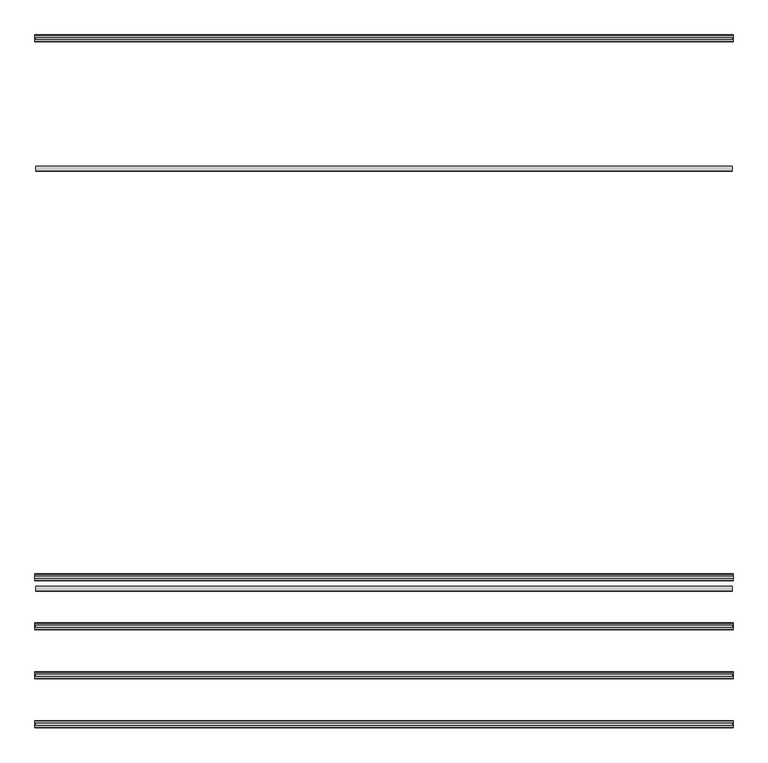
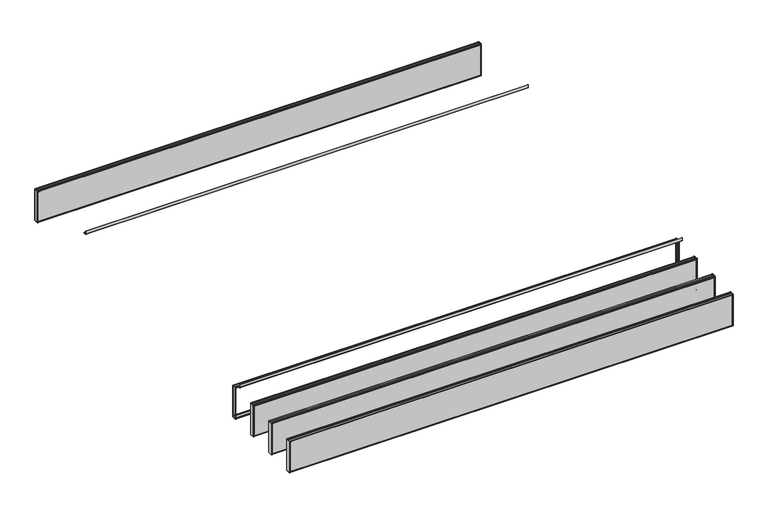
"""IFC4 building model written with IfcOpenShell, lengths in millimetres: proxy geometry, durlum_POLYLAM : durlum_POLYLAM 40."""

from ifc_helpers import new_model, si_unit, point, frame, frame_2d, origin, place, context, project, spatial, polyline, circle_curve, trimmed, segment, composite_curve, outline, extrude, source, transform, mapped, element, save
from ifc_brep_helpers import plane_surface, cylinder_surface, advanced_brep


def generic_models_1035ca5c(model_context):
    return source(origin(), model_context, "Body", "SolidModel", [
        advanced_brep(
        [(1995.0, -1102.0, 2016.9), (1995.0, -1112.0, 2016.9), (1995.0, -1112.0, 2015.9), (1995.0, -1101.0, 2015.9), (1995.0, -1101.0, 1717.9), (1995.0, -1139.0, 1717.9), (1995.0, -1139.0, 2015.8155735), (1995.0, -1128.0, 2015.8155735), (1995.0, -1128.0, 2016.9), (1995.0, -1138.0, 2016.9), (1995.0, -1140.0, 2014.9), (1995.0, -1140.0, 1718.9), (1995.0, -1138.0, 1716.9), (1995.0, -1102.0, 1716.9), (1995.0, -1100.0, 1718.9), (1995.0, -1100.0, 2014.9), (-1995.0, -1102.0, 2016.9), (-1995.0, -1100.0, 2014.9), (-1995.0, -1100.0, 1718.9), (-1995.0, -1102.0, 1716.9), (-1995.0, -1138.0, 1716.9), (-1995.0, -1140.0, 1718.9), (-1995.0, -1140.0, 2014.9), (-1995.0, -1138.0, 2016.9), (-1995.0, -1128.0, 2016.9), (-1995.0, -1128.0, 2015.8155735), (-1995.0, -1139.0, 2015.8155735), (-1995.0, -1139.0, 1717.9), (-1995.0, -1101.0, 1717.9), (-1995.0, -1101.0, 2015.9), (-1995.0, -1112.0, 2015.9), (-1995.0, -1112.0, 2016.9), (-1986.5, -1101.0, 2008.4), (1986.5, -1101.0, 2008.4), (1986.5, -1101.0, 1725.4), (-1986.5, -1101.0, 1725.4), (1986.5, -1139.0, 2008.4), (-1986.5, -1139.0, 2008.4), (-1986.5, -1139.0, 1725.4), (1986.5, -1139.0, 1725.4), (-1986.5, -1140.0, 2008.4), (1986.5, -1140.0, 2008.4), (1986.5, -1140.0, 1725.4), (-1986.5, -1140.0, 1725.4), (1986.5, -1100.0, 2008.4), (-1986.5, -1100.0, 2008.4), (-1986.5, -1100.0, 1725.4), (1986.5, -1100.0, 1725.4)],
        [
            (0, 1),
            (1, 2),
            (2, 3),
            (3, 4),
            (4, 5),
            (5, 6),
            (6, 7),
            (7, 8),
            (8, 9),
            (9, 10, circle_curve(frame((1995.0, -1138.0, 2014.9), z_axis=(1.0, 0.0, 0.0), x_axis=(0.0, 1.0, 0.0)), 2.0)),
            (10, 11),
            (11, 12, circle_curve(frame((1995.0, -1138.0, 1718.9), z_axis=(1.0, 0.0, 0.0), x_axis=(0.0, 1.0, 0.0)), 2.0)),
            (12, 13),
            (13, 14, circle_curve(frame((1995.0, -1102.0, 1718.9), z_axis=(1.0, 0.0, 0.0), x_axis=(0.0, 1.0, 0.0)), 2.0)),
            (14, 15),
            (15, 0, circle_curve(frame((1995.0, -1102.0, 2014.9), z_axis=(1.0, 0.0, 0.0), x_axis=(0.0, 1.0, 0.0)), 2.0)),
            (16, 17, circle_curve(frame((-1995.0, -1102.0, 2014.9), z_axis=(-1.0, 0.0, 0.0), x_axis=(0.0, 1.0, 0.0)), 2.0)),
            (17, 18),
            (18, 19, circle_curve(frame((-1995.0, -1102.0, 1718.9), z_axis=(-1.0, 0.0, 0.0), x_axis=(0.0, 1.0, 0.0)), 2.0)),
            (19, 20),
            (20, 21, circle_curve(frame((-1995.0, -1138.0, 1718.9), z_axis=(-1.0, 0.0, 0.0), x_axis=(0.0, 1.0, 0.0)), 2.0)),
            (21, 22),
            (22, 23, circle_curve(frame((-1995.0, -1138.0, 2014.9), z_axis=(-1.0, 0.0, 0.0), x_axis=(0.0, 1.0, 0.0)), 2.0)),
            (23, 24),
            (24, 25),
            (25, 26),
            (26, 27),
            (27, 28),
            (28, 29),
            (29, 30),
            (30, 31),
            (31, 16),
            (0, 16),
            (31, 1),
            (30, 2),
            (29, 3),
            (28, 4),
            (32, 33),
            (33, 34),
            (34, 35),
            (35, 32),
            (27, 5),
            (26, 6),
            (36, 37),
            (37, 38),
            (38, 39),
            (39, 36),
            (25, 7),
            (24, 8),
            (23, 9),
            (10, 22),
            (21, 11),
            (40, 41),
            (41, 42),
            (42, 43),
            (43, 40),
            (12, 20),
            (19, 13),
            (14, 18),
            (17, 15),
            (44, 45),
            (45, 46),
            (46, 47),
            (47, 44),
            (44, 33),
            (32, 45),
            (36, 41),
            (40, 37),
            (35, 46),
            (43, 38),
            (34, 47),
            (42, 39),
        ],
        [
            plane_surface(frame((1995.0, -1112.0, 2016.9), z_axis=(1.0, 0.0, 0.0), x_axis=(0.0, -1.0, 0.0))),
            plane_surface(frame((-1995.0, -1112.0, 2016.9), z_axis=(-1.0, 0.0, 0.0), x_axis=(0.0, 1.0, 0.0))),
            plane_surface(frame((1995.0, -1102.0, 2016.9), z_axis=(0.0, 0.0, 1.0), x_axis=(-1.0, 0.0, 0.0))),
            plane_surface(frame((1995.0, -1112.0, 2016.9), z_axis=(0.0, -1.0, 0.0), x_axis=(-1.0, 0.0, 0.0))),
            plane_surface(frame((1995.0, -1112.0, 2015.9), z_axis=(0.0, 0.0, -1.0), x_axis=(-1.0, 0.0, 0.0))),
            plane_surface(frame((1995.0, -1101.0, 2015.9), z_axis=(0.0, -1.0, 0.0), x_axis=(-1.0, 0.0, 0.0))),
            plane_surface(frame((1995.0, -1101.0, 1717.9), z_axis=(0.0, 0.0, 1.0), x_axis=(-1.0, 0.0, 0.0))),
            plane_surface(frame((1995.0, -1139.0, 1717.9), z_axis=(0.0, 1.0, 0.0), x_axis=(-1.0, 0.0, 0.0))),
            plane_surface(frame((1995.0, -1139.0, 2015.8155735), z_axis=(0.0, 0.0, -1.0), x_axis=(-1.0, 0.0, 0.0))),
            plane_surface(frame((1995.0, -1128.0, 2015.8155735), z_axis=(0.0, 1.0, 0.0), x_axis=(-1.0, 0.0, 0.0))),
            plane_surface(frame((1995.0, -1128.0, 2016.9), z_axis=(0.0, 0.0, 1.0), x_axis=(-1.0, 0.0, 0.0))),
            plane_surface(frame((1995.0, -1140.0, 2014.9), z_axis=(0.0, -1.0, 0.0), x_axis=(-1.0, 0.0, 0.0))),
            plane_surface(frame((1995.0, -1138.0, 1716.9), z_axis=(0.0, 0.0, -1.0), x_axis=(-1.0, 0.0, 0.0))),
            plane_surface(frame((1995.0, -1100.0, 1718.9), z_axis=(0.0, 1.0, 0.0), x_axis=(-1.0, 0.0, 0.0))),
            cylinder_surface(frame((-1995.0, -1138.0, 2014.9), z_axis=(1.0, 0.0, 0.0), x_axis=(0.0, 1.0, 0.0)), 2.0),
            cylinder_surface(frame((-1995.0, -1138.0, 1718.9), z_axis=(1.0, 0.0, 0.0), x_axis=(0.0, 1.0, 0.0)), 2.0),
            cylinder_surface(frame((-1995.0, -1102.0, 1718.9), z_axis=(1.0, 0.0, 0.0), x_axis=(0.0, 1.0, 0.0)), 2.0),
            cylinder_surface(frame((-1995.0, -1102.0, 2014.9), z_axis=(1.0, 0.0, 0.0), x_axis=(0.0, 1.0, 0.0)), 2.0),
            plane_surface(frame((1986.5, -1140.0, 2008.4), z_axis=(0.0, 0.0, -1.0), x_axis=(0.0, 1.0, 0.0))),
            plane_surface(frame((-1986.5, -1140.0, 2008.4), z_axis=(1.0, 0.0, 0.0), x_axis=(0.0, 1.0, 0.0))),
            plane_surface(frame((-1986.5, -1140.0, 1725.4), z_axis=(0.0, 0.0, 1.0), x_axis=(0.0, 1.0, 0.0))),
            plane_surface(frame((1986.5, -1140.0, 1725.4), z_axis=(-1.0, 0.0, 0.0), x_axis=(0.0, 1.0, 0.0))),
        ],
        [
            (0, [[1, 2, 3, 4, 5, 6, 7, 8, 9, 10, 11, 12, 13, 14, 15, 16]]),
            (1, [[17, 18, 19, 20, 21, 22, 23, 24, 25, 26, 27, 28, 29, 30, 31, 32]]),
            (2, [[-1, 33, -32, 34]]),
            (3, [[-2, -34, -31, 35]]),
            (4, [[-3, -35, -30, 36]]),
            (5, [[-4, -36, -29, 37], [38, 39, 40, 41]]),
            (6, [[-5, -37, -28, 42]]),
            (7, [[-6, -42, -27, 43], [44, 45, 46, 47]]),
            (8, [[-7, -43, -26, 48]]),
            (9, [[-8, -48, -25, 49]]),
            (10, [[-9, -49, -24, 50]]),
            (11, [[-11, 51, -22, 52], [53, 54, 55, 56]]),
            (12, [[-13, 57, -20, 58]]),
            (13, [[-15, 59, -18, 60], [61, 62, 63, 64]]),
            (14, [[-10, -50, -23, -51]]),
            (15, [[-12, -52, -21, -57]]),
            (16, [[-14, -58, -19, -59]]),
            (17, [[-16, -60, -17, -33]]),
            (18, [[65, -38, 66, -61]]),
            (18, [[67, -53, 68, -44]]),
            (19, [[-66, -41, 69, -62]]),
            (19, [[-68, -56, 70, -45]]),
            (20, [[-69, -40, 71, -63]]),
            (20, [[-70, -55, 72, -46]]),
            (21, [[-65, -64, -71, -39]]),
            (21, [[-67, -47, -72, -54]]),
        ],
    ),
        extrude(outline(polyline([(1986.5, -1381.0), (-1986.5, -1381.0), (-1986.5, -1380.0), (1986.5, -1380.0), (1986.5, -1381.0)])), frame((0.0, 0.0, 1725.4), z_axis=(0.0, 0.0, 1.0), x_axis=(1.0, 0.0, 0.0)), (0.0, 0.0, 1.0), 283.0),
        extrude(outline(polyline([(1986.5, -1420.0), (-1986.5, -1420.0), (-1986.5, -1419.0), (1986.5, -1419.0), (1986.5, -1420.0)])), frame((0.0, 0.0, 1725.4), z_axis=(0.0, 0.0, 1.0), x_axis=(1.0, 0.0, 0.0)), (0.0, 0.0, 1.0), 283.0),
        extrude(outline(polyline([(1993.0, -1381.0), (1995.0, -1381.0), (1995.0, -1419.0), (1993.0, -1419.0), (1993.0, -1381.0)])), frame((0.0, 0.0, 1717.9), z_axis=(0.0, 0.0, 1.0), x_axis=(1.0, 0.0, 0.0)), (0.0, 0.0, 1.0), 298.0),
        extrude(outline(polyline([(-1995.0, -1381.0), (-1993.0, -1381.0), (-1993.0, -1419.0), (-1995.0, -1419.0), (-1995.0, -1381.0)])), frame((0.0, 0.0, 1717.9), z_axis=(0.0, 0.0, 1.0), x_axis=(1.0, 0.0, 0.0)), (0.0, 0.0, 1.0), 298.0),
        advanced_brep(
        [(1995.0, -1382.0, 2016.9), (1995.0, -1392.0, 2016.9), (1995.0, -1392.0, 2015.9), (1995.0, -1381.0, 2015.9), (1995.0, -1381.0, 1717.9), (1995.0, -1419.0, 1717.9), (1995.0, -1419.0, 2015.8155735), (1995.0, -1408.0, 2015.8155735), (1995.0, -1408.0, 2016.9), (1995.0, -1418.0, 2016.9), (1995.0, -1420.0, 2014.9), (1995.0, -1420.0, 1718.9), (1995.0, -1418.0, 1716.9), (1995.0, -1382.0, 1716.9), (1995.0, -1380.0, 1718.9), (1995.0, -1380.0, 2014.9), (-1995.0, -1382.0, 2016.9), (-1995.0, -1380.0, 2014.9), (-1995.0, -1380.0, 1718.9), (-1995.0, -1382.0, 1716.9), (-1995.0, -1418.0, 1716.9), (-1995.0, -1420.0, 1718.9), (-1995.0, -1420.0, 2014.9), (-1995.0, -1418.0, 2016.9), (-1995.0, -1408.0, 2016.9), (-1995.0, -1408.0, 2015.8155735), (-1995.0, -1419.0, 2015.8155735), (-1995.0, -1419.0, 1717.9), (-1995.0, -1381.0, 1717.9), (-1995.0, -1381.0, 2015.9), (-1995.0, -1392.0, 2015.9), (-1995.0, -1392.0, 2016.9), (-1986.5, -1381.0, 2008.4), (1986.5, -1381.0, 2008.4), (1986.5, -1381.0, 1725.4), (-1986.5, -1381.0, 1725.4), (1986.5, -1419.0, 2008.4), (-1986.5, -1419.0, 2008.4), (-1986.5, -1419.0, 1725.4), (1986.5, -1419.0, 1725.4), (-1986.5, -1420.0, 2008.4), (1986.5, -1420.0, 2008.4), (1986.5, -1420.0, 1725.4), (-1986.5, -1420.0, 1725.4), (1986.5, -1380.0, 2008.4), (-1986.5, -1380.0, 2008.4), (-1986.5, -1380.0, 1725.4), (1986.5, -1380.0, 1725.4)],
        [
            (0, 1),
            (1, 2),
            (2, 3),
            (3, 4),
            (4, 5),
            (5, 6),
            (6, 7),
            (7, 8),
            (8, 9),
            (9, 10, circle_curve(frame((1995.0, -1418.0, 2014.9), z_axis=(1.0, 0.0, 0.0), x_axis=(0.0, 1.0, 0.0)), 2.0)),
            (10, 11),
            (11, 12, circle_curve(frame((1995.0, -1418.0, 1718.9), z_axis=(1.0, 0.0, 0.0), x_axis=(0.0, 1.0, 0.0)), 2.0)),
            (12, 13),
            (13, 14, circle_curve(frame((1995.0, -1382.0, 1718.9), z_axis=(1.0, 0.0, 0.0), x_axis=(0.0, 1.0, 0.0)), 2.0)),
            (14, 15),
            (15, 0, circle_curve(frame((1995.0, -1382.0, 2014.9), z_axis=(1.0, 0.0, 0.0), x_axis=(0.0, 1.0, 0.0)), 2.0)),
            (16, 17, circle_curve(frame((-1995.0, -1382.0, 2014.9), z_axis=(-1.0, 0.0, 0.0), x_axis=(0.0, 1.0, 0.0)), 2.0)),
            (17, 18),
            (18, 19, circle_curve(frame((-1995.0, -1382.0, 1718.9), z_axis=(-1.0, 0.0, 0.0), x_axis=(0.0, 1.0, 0.0)), 2.0)),
            (19, 20),
            (20, 21, circle_curve(frame((-1995.0, -1418.0, 1718.9), z_axis=(-1.0, 0.0, 0.0), x_axis=(0.0, 1.0, 0.0)), 2.0)),
            (21, 22),
            (22, 23, circle_curve(frame((-1995.0, -1418.0, 2014.9), z_axis=(-1.0, 0.0, 0.0), x_axis=(0.0, 1.0, 0.0)), 2.0)),
            (23, 24),
            (24, 25),
            (25, 26),
            (26, 27),
            (27, 28),
            (28, 29),
            (29, 30),
            (30, 31),
            (31, 16),
            (0, 16),
            (31, 1),
            (30, 2),
            (29, 3),
            (28, 4),
            (32, 33),
            (33, 34),
            (34, 35),
            (35, 32),
            (27, 5),
            (26, 6),
            (36, 37),
            (37, 38),
            (38, 39),
            (39, 36),
            (25, 7),
            (24, 8),
            (23, 9),
            (10, 22),
            (21, 11),
            (40, 41),
            (41, 42),
            (42, 43),
            (43, 40),
            (12, 20),
            (19, 13),
            (14, 18),
            (17, 15),
            (44, 45),
            (45, 46),
            (46, 47),
            (47, 44),
            (44, 33),
            (32, 45),
            (36, 41),
            (40, 37),
            (35, 46),
            (43, 38),
            (34, 47),
            (42, 39),
        ],
        [
            plane_surface(frame((1995.0, -1392.0, 2016.9), z_axis=(1.0, 0.0, 0.0), x_axis=(0.0, -1.0, 0.0))),
            plane_surface(frame((-1995.0, -1392.0, 2016.9), z_axis=(-1.0, 0.0, 0.0), x_axis=(0.0, 1.0, 0.0))),
            plane_surface(frame((1995.0, -1382.0, 2016.9), z_axis=(0.0, 0.0, 1.0), x_axis=(-1.0, 0.0, 0.0))),
            plane_surface(frame((1995.0, -1392.0, 2016.9), z_axis=(0.0, -1.0, 0.0), x_axis=(-1.0, 0.0, 0.0))),
            plane_surface(frame((1995.0, -1392.0, 2015.9), z_axis=(0.0, 0.0, -1.0), x_axis=(-1.0, 0.0, 0.0))),
            plane_surface(frame((1995.0, -1381.0, 2015.9), z_axis=(0.0, -1.0, 0.0), x_axis=(-1.0, 0.0, 0.0))),
            plane_surface(frame((1995.0, -1381.0, 1717.9), z_axis=(0.0, 0.0, 1.0), x_axis=(-1.0, 0.0, 0.0))),
            plane_surface(frame((1995.0, -1419.0, 1717.9), z_axis=(0.0, 1.0, 0.0), x_axis=(-1.0, 0.0, 0.0))),
            plane_surface(frame((1995.0, -1419.0, 2015.8155735), z_axis=(0.0, 0.0, -1.0), x_axis=(-1.0, 0.0, 0.0))),
            plane_surface(frame((1995.0, -1408.0, 2015.8155735), z_axis=(0.0, 1.0, 0.0), x_axis=(-1.0, 0.0, 0.0))),
            plane_surface(frame((1995.0, -1408.0, 2016.9), z_axis=(0.0, 0.0, 1.0), x_axis=(-1.0, 0.0, 0.0))),
            plane_surface(frame((1995.0, -1420.0, 2014.9), z_axis=(0.0, -1.0, 0.0), x_axis=(-1.0, 0.0, 0.0))),
            plane_surface(frame((1995.0, -1418.0, 1716.9), z_axis=(0.0, 0.0, -1.0), x_axis=(-1.0, 0.0, 0.0))),
            plane_surface(frame((1995.0, -1380.0, 1718.9), z_axis=(0.0, 1.0, 0.0), x_axis=(-1.0, 0.0, 0.0))),
            cylinder_surface(frame((-1995.0, -1418.0, 2014.9), z_axis=(1.0, 0.0, 0.0), x_axis=(0.0, 1.0, 0.0)), 2.0),
            cylinder_surface(frame((-1995.0, -1418.0, 1718.9), z_axis=(1.0, 0.0, 0.0), x_axis=(0.0, 1.0, 0.0)), 2.0),
            cylinder_surface(frame((-1995.0, -1382.0, 1718.9), z_axis=(1.0, 0.0, 0.0), x_axis=(0.0, 1.0, 0.0)), 2.0),
            cylinder_surface(frame((-1995.0, -1382.0, 2014.9), z_axis=(1.0, 0.0, 0.0), x_axis=(0.0, 1.0, 0.0)), 2.0),
            plane_surface(frame((1986.5, -1420.0, 2008.4), z_axis=(0.0, 0.0, -1.0), x_axis=(0.0, 1.0, 0.0))),
            plane_surface(frame((-1986.5, -1420.0, 2008.4), z_axis=(1.0, 0.0, 0.0), x_axis=(0.0, 1.0, 0.0))),
            plane_surface(frame((-1986.5, -1420.0, 1725.4), z_axis=(0.0, 0.0, 1.0), x_axis=(0.0, 1.0, 0.0))),
            plane_surface(frame((1986.5, -1420.0, 1725.4), z_axis=(-1.0, 0.0, 0.0), x_axis=(0.0, 1.0, 0.0))),
        ],
        [
            (0, [[1, 2, 3, 4, 5, 6, 7, 8, 9, 10, 11, 12, 13, 14, 15, 16]]),
            (1, [[17, 18, 19, 20, 21, 22, 23, 24, 25, 26, 27, 28, 29, 30, 31, 32]]),
            (2, [[-1, 33, -32, 34]]),
            (3, [[-2, -34, -31, 35]]),
            (4, [[-3, -35, -30, 36]]),
            (5, [[-4, -36, -29, 37], [38, 39, 40, 41]]),
            (6, [[-5, -37, -28, 42]]),
            (7, [[-6, -42, -27, 43], [44, 45, 46, 47]]),
            (8, [[-7, -43, -26, 48]]),
            (9, [[-8, -48, -25, 49]]),
            (10, [[-9, -49, -24, 50]]),
            (11, [[-11, 51, -22, 52], [53, 54, 55, 56]]),
            (12, [[-13, 57, -20, 58]]),
            (13, [[-15, 59, -18, 60], [61, 62, 63, 64]]),
            (14, [[-10, -50, -23, -51]]),
            (15, [[-12, -52, -21, -57]]),
            (16, [[-14, -58, -19, -59]]),
            (17, [[-16, -60, -17, -33]]),
            (18, [[65, -38, 66, -61]]),
            (18, [[67, -53, 68, -44]]),
            (19, [[-66, -41, 69, -62]]),
            (19, [[-68, -56, 70, -45]]),
            (20, [[-69, -40, 71, -63]]),
            (20, [[-70, -55, 72, -46]]),
            (21, [[-65, -64, -71, -39]]),
            (21, [[-67, -47, -72, -54]]),
        ],
    ),
        extrude(outline(polyline([(1986.5, -1661.0), (-1986.5, -1661.0), (-1986.5, -1660.0), (1986.5, -1660.0), (1986.5, -1661.0)])), frame((0.0, 0.0, 1725.4), z_axis=(0.0, 0.0, 1.0), x_axis=(1.0, 0.0, 0.0)), (0.0, 0.0, 1.0), 283.0),
        extrude(outline(polyline([(1986.5, -1700.0), (-1986.5, -1700.0), (-1986.5, -1699.0), (1986.5, -1699.0), (1986.5, -1700.0)])), frame((0.0, 0.0, 1725.4), z_axis=(0.0, 0.0, 1.0), x_axis=(1.0, 0.0, 0.0)), (0.0, 0.0, 1.0), 283.0),
        extrude(outline(polyline([(1993.0, -1661.0), (1995.0, -1661.0), (1995.0, -1699.0), (1993.0, -1699.0), (1993.0, -1661.0)])), frame((0.0, 0.0, 1717.9), z_axis=(0.0, 0.0, 1.0), x_axis=(1.0, 0.0, 0.0)), (0.0, 0.0, 1.0), 298.0),
        extrude(outline(polyline([(-1995.0, -1661.0), (-1993.0, -1661.0), (-1993.0, -1699.0), (-1995.0, -1699.0), (-1995.0, -1661.0)])), frame((0.0, 0.0, 1717.9), z_axis=(0.0, 0.0, 1.0), x_axis=(1.0, 0.0, 0.0)), (0.0, 0.0, 1.0), 298.0),
        advanced_brep(
        [(1995.0, -1662.0, 2016.9), (1995.0, -1672.0, 2016.9), (1995.0, -1672.0, 2015.9), (1995.0, -1661.0, 2015.9), (1995.0, -1661.0, 1717.9), (1995.0, -1699.0, 1717.9), (1995.0, -1699.0, 2015.8155735), (1995.0, -1688.0, 2015.8155735), (1995.0, -1688.0, 2016.9), (1995.0, -1698.0, 2016.9), (1995.0, -1700.0, 2014.9), (1995.0, -1700.0, 1718.9), (1995.0, -1698.0, 1716.9), (1995.0, -1662.0, 1716.9), (1995.0, -1660.0, 1718.9), (1995.0, -1660.0, 2014.9), (-1995.0, -1662.0, 2016.9), (-1995.0, -1660.0, 2014.9), (-1995.0, -1660.0, 1718.9), (-1995.0, -1662.0, 1716.9), (-1995.0, -1698.0, 1716.9), (-1995.0, -1700.0, 1718.9), (-1995.0, -1700.0, 2014.9), (-1995.0, -1698.0, 2016.9), (-1995.0, -1688.0, 2016.9), (-1995.0, -1688.0, 2015.8155735), (-1995.0, -1699.0, 2015.8155735), (-1995.0, -1699.0, 1717.9), (-1995.0, -1661.0, 1717.9), (-1995.0, -1661.0, 2015.9), (-1995.0, -1672.0, 2015.9), (-1995.0, -1672.0, 2016.9), (-1986.5, -1661.0, 2008.4), (1986.5, -1661.0, 2008.4), (1986.5, -1661.0, 1725.4), (-1986.5, -1661.0, 1725.4), (1986.5, -1699.0, 2008.4), (-1986.5, -1699.0, 2008.4), (-1986.5, -1699.0, 1725.4), (1986.5, -1699.0, 1725.4), (-1986.5, -1700.0, 2008.4), (1986.5, -1700.0, 2008.4), (1986.5, -1700.0, 1725.4), (-1986.5, -1700.0, 1725.4), (1986.5, -1660.0, 2008.4), (-1986.5, -1660.0, 2008.4), (-1986.5, -1660.0, 1725.4), (1986.5, -1660.0, 1725.4)],
        [
            (0, 1),
            (1, 2),
            (2, 3),
            (3, 4),
            (4, 5),
            (5, 6),
            (6, 7),
            (7, 8),
            (8, 9),
            (9, 10, circle_curve(frame((1995.0, -1698.0, 2014.9), z_axis=(1.0, 0.0, 0.0), x_axis=(0.0, 1.0, 0.0)), 2.0)),
            (10, 11),
            (11, 12, circle_curve(frame((1995.0, -1698.0, 1718.9), z_axis=(1.0, 0.0, 0.0), x_axis=(0.0, 1.0, 0.0)), 2.0)),
            (12, 13),
            (13, 14, circle_curve(frame((1995.0, -1662.0, 1718.9), z_axis=(1.0, 0.0, 0.0), x_axis=(0.0, 1.0, 0.0)), 2.0)),
            (14, 15),
            (15, 0, circle_curve(frame((1995.0, -1662.0, 2014.9), z_axis=(1.0, 0.0, 0.0), x_axis=(0.0, 1.0, 0.0)), 2.0)),
            (16, 17, circle_curve(frame((-1995.0, -1662.0, 2014.9), z_axis=(-1.0, 0.0, 0.0), x_axis=(0.0, 1.0, 0.0)), 2.0)),
            (17, 18),
            (18, 19, circle_curve(frame((-1995.0, -1662.0, 1718.9), z_axis=(-1.0, 0.0, 0.0), x_axis=(0.0, 1.0, 0.0)), 2.0)),
            (19, 20),
            (20, 21, circle_curve(frame((-1995.0, -1698.0, 1718.9), z_axis=(-1.0, 0.0, 0.0), x_axis=(0.0, 1.0, 0.0)), 2.0)),
            (21, 22),
            (22, 23, circle_curve(frame((-1995.0, -1698.0, 2014.9), z_axis=(-1.0, 0.0, 0.0), x_axis=(0.0, 1.0, 0.0)), 2.0)),
            (23, 24),
            (24, 25),
            (25, 26),
            (26, 27),
            (27, 28),
            (28, 29),
            (29, 30),
            (30, 31),
            (31, 16),
            (0, 16),
            (31, 1),
            (30, 2),
            (29, 3),
            (28, 4),
            (32, 33),
            (33, 34),
            (34, 35),
            (35, 32),
            (27, 5),
            (26, 6),
            (36, 37),
            (37, 38),
            (38, 39),
            (39, 36),
            (25, 7),
            (24, 8),
            (23, 9),
            (10, 22),
            (21, 11),
            (40, 41),
            (41, 42),
            (42, 43),
            (43, 40),
            (12, 20),
            (19, 13),
            (14, 18),
            (17, 15),
            (44, 45),
            (45, 46),
            (46, 47),
            (47, 44),
            (44, 33),
            (32, 45),
            (36, 41),
            (40, 37),
            (35, 46),
            (43, 38),
            (34, 47),
            (42, 39),
        ],
        [
            plane_surface(frame((1995.0, -1672.0, 2016.9), z_axis=(1.0, 0.0, 0.0), x_axis=(0.0, -1.0, 0.0))),
            plane_surface(frame((-1995.0, -1672.0, 2016.9), z_axis=(-1.0, 0.0, 0.0), x_axis=(0.0, 1.0, 0.0))),
            plane_surface(frame((1995.0, -1662.0, 2016.9), z_axis=(0.0, 0.0, 1.0), x_axis=(-1.0, 0.0, 0.0))),
            plane_surface(frame((1995.0, -1672.0, 2016.9), z_axis=(0.0, -1.0, 0.0), x_axis=(-1.0, 0.0, 0.0))),
            plane_surface(frame((1995.0, -1672.0, 2015.9), z_axis=(0.0, 0.0, -1.0), x_axis=(-1.0, 0.0, 0.0))),
            plane_surface(frame((1995.0, -1661.0, 2015.9), z_axis=(0.0, -1.0, 0.0), x_axis=(-1.0, 0.0, 0.0))),
            plane_surface(frame((1995.0, -1661.0, 1717.9), z_axis=(0.0, 0.0, 1.0), x_axis=(-1.0, 0.0, 0.0))),
            plane_surface(frame((1995.0, -1699.0, 1717.9), z_axis=(0.0, 1.0, 0.0), x_axis=(-1.0, 0.0, 0.0))),
            plane_surface(frame((1995.0, -1699.0, 2015.8155735), z_axis=(0.0, 0.0, -1.0), x_axis=(-1.0, 0.0, 0.0))),
            plane_surface(frame((1995.0, -1688.0, 2015.8155735), z_axis=(0.0, 1.0, 0.0), x_axis=(-1.0, 0.0, 0.0))),
            plane_surface(frame((1995.0, -1688.0, 2016.9), z_axis=(0.0, 0.0, 1.0), x_axis=(-1.0, 0.0, 0.0))),
            plane_surface(frame((1995.0, -1700.0, 2014.9), z_axis=(0.0, -1.0, 0.0), x_axis=(-1.0, 0.0, 0.0))),
            plane_surface(frame((1995.0, -1698.0, 1716.9), z_axis=(0.0, 0.0, -1.0), x_axis=(-1.0, 0.0, 0.0))),
            plane_surface(frame((1995.0, -1660.0, 1718.9), z_axis=(0.0, 1.0, 0.0), x_axis=(-1.0, 0.0, 0.0))),
            cylinder_surface(frame((-1995.0, -1698.0, 2014.9), z_axis=(1.0, 0.0, 0.0), x_axis=(0.0, 1.0, 0.0)), 2.0),
            cylinder_surface(frame((-1995.0, -1698.0, 1718.9), z_axis=(1.0, 0.0, 0.0), x_axis=(0.0, 1.0, 0.0)), 2.0),
            cylinder_surface(frame((-1995.0, -1662.0, 1718.9), z_axis=(1.0, 0.0, 0.0), x_axis=(0.0, 1.0, 0.0)), 2.0),
            cylinder_surface(frame((-1995.0, -1662.0, 2014.9), z_axis=(1.0, 0.0, 0.0), x_axis=(0.0, 1.0, 0.0)), 2.0),
            plane_surface(frame((1986.5, -1700.0, 2008.4), z_axis=(0.0, 0.0, -1.0), x_axis=(0.0, 1.0, 0.0))),
            plane_surface(frame((-1986.5, -1700.0, 2008.4), z_axis=(1.0, 0.0, 0.0), x_axis=(0.0, 1.0, 0.0))),
            plane_surface(frame((-1986.5, -1700.0, 1725.4), z_axis=(0.0, 0.0, 1.0), x_axis=(0.0, 1.0, 0.0))),
            plane_surface(frame((1986.5, -1700.0, 1725.4), z_axis=(-1.0, 0.0, 0.0), x_axis=(0.0, 1.0, 0.0))),
        ],
        [
            (0, [[1, 2, 3, 4, 5, 6, 7, 8, 9, 10, 11, 12, 13, 14, 15, 16]]),
            (1, [[17, 18, 19, 20, 21, 22, 23, 24, 25, 26, 27, 28, 29, 30, 31, 32]]),
            (2, [[-1, 33, -32, 34]]),
            (3, [[-2, -34, -31, 35]]),
            (4, [[-3, -35, -30, 36]]),
            (5, [[-4, -36, -29, 37], [38, 39, 40, 41]]),
            (6, [[-5, -37, -28, 42]]),
            (7, [[-6, -42, -27, 43], [44, 45, 46, 47]]),
            (8, [[-7, -43, -26, 48]]),
            (9, [[-8, -48, -25, 49]]),
            (10, [[-9, -49, -24, 50]]),
            (11, [[-11, 51, -22, 52], [53, 54, 55, 56]]),
            (12, [[-13, 57, -20, 58]]),
            (13, [[-15, 59, -18, 60], [61, 62, 63, 64]]),
            (14, [[-10, -50, -23, -51]]),
            (15, [[-12, -52, -21, -57]]),
            (16, [[-14, -58, -19, -59]]),
            (17, [[-16, -60, -17, -33]]),
            (18, [[65, -38, 66, -61]]),
            (18, [[67, -53, 68, -44]]),
            (19, [[-66, -41, 69, -62]]),
            (19, [[-68, -56, 70, -45]]),
            (20, [[-69, -40, 71, -63]]),
            (20, [[-70, -55, 72, -46]]),
            (21, [[-65, -64, -71, -39]]),
            (21, [[-67, -47, -72, -54]]),
        ],
    ),
        extrude(outline(polyline([(1986.5, 1979.0), (-1986.5, 1979.0), (-1986.5, 1980.0), (1986.5, 1980.0), (1986.5, 1979.0)])), frame((0.0, 0.0, 1725.4), z_axis=(0.0, 0.0, 1.0), x_axis=(1.0, 0.0, 0.0)), (0.0, 0.0, 1.0), 283.0),
        extrude(outline(polyline([(1986.5, 1940.0), (-1986.5, 1940.0), (-1986.5, 1941.0), (1986.5, 1941.0), (1986.5, 1940.0)])), frame((0.0, 0.0, 1725.4), z_axis=(0.0, 0.0, 1.0), x_axis=(1.0, 0.0, 0.0)), (0.0, 0.0, 1.0), 283.0),
        extrude(outline(polyline([(1993.0, 1979.0), (1995.0, 1979.0), (1995.0, 1941.0), (1993.0, 1941.0), (1993.0, 1979.0)])), frame((0.0, 0.0, 1717.9), z_axis=(0.0, 0.0, 1.0), x_axis=(1.0, 0.0, 0.0)), (0.0, 0.0, 1.0), 298.0),
        extrude(outline(polyline([(-1995.0, 1979.0), (-1993.0, 1979.0), (-1993.0, 1941.0), (-1995.0, 1941.0), (-1995.0, 1979.0)])), frame((0.0, 0.0, 1717.9), z_axis=(0.0, 0.0, 1.0), x_axis=(1.0, 0.0, 0.0)), (0.0, 0.0, 1.0), 298.0),
        advanced_brep(
        [(1995.0, 1978.0, 2016.9), (1995.0, 1968.0, 2016.9), (1995.0, 1968.0, 2015.9), (1995.0, 1979.0, 2015.9), (1995.0, 1979.0, 1717.9), (1995.0, 1941.0, 1717.9), (1995.0, 1941.0, 2015.8155735), (1995.0, 1952.0, 2015.8155735), (1995.0, 1952.0, 2016.9), (1995.0, 1942.0, 2016.9), (1995.0, 1940.0, 2014.9), (1995.0, 1940.0, 1718.9), (1995.0, 1942.0, 1716.9), (1995.0, 1978.0, 1716.9), (1995.0, 1980.0, 1718.9), (1995.0, 1980.0, 2014.9), (-1995.0, 1978.0, 2016.9), (-1995.0, 1980.0, 2014.9), (-1995.0, 1980.0, 1718.9), (-1995.0, 1978.0, 1716.9), (-1995.0, 1942.0, 1716.9), (-1995.0, 1940.0, 1718.9), (-1995.0, 1940.0, 2014.9), (-1995.0, 1942.0, 2016.9), (-1995.0, 1952.0, 2016.9), (-1995.0, 1952.0, 2015.8155735), (-1995.0, 1941.0, 2015.8155735), (-1995.0, 1941.0, 1717.9), (-1995.0, 1979.0, 1717.9), (-1995.0, 1979.0, 2015.9), (-1995.0, 1968.0, 2015.9), (-1995.0, 1968.0, 2016.9), (-1986.5, 1979.0, 2008.4), (1986.5, 1979.0, 2008.4), (1986.5, 1979.0, 1725.4), (-1986.5, 1979.0, 1725.4), (1986.5, 1941.0, 2008.4), (-1986.5, 1941.0, 2008.4), (-1986.5, 1941.0, 1725.4), (1986.5, 1941.0, 1725.4), (-1986.5, 1940.0, 2008.4), (1986.5, 1940.0, 2008.4), (1986.5, 1940.0, 1725.4), (-1986.5, 1940.0, 1725.4), (1986.5, 1980.0, 2008.4), (-1986.5, 1980.0, 2008.4), (-1986.5, 1980.0, 1725.4), (1986.5, 1980.0, 1725.4)],
        [
            (0, 1),
            (1, 2),
            (2, 3),
            (3, 4),
            (4, 5),
            (5, 6),
            (6, 7),
            (7, 8),
            (8, 9),
            (9, 10, circle_curve(frame((1995.0, 1942.0, 2014.9), z_axis=(1.0, 0.0, 0.0), x_axis=(0.0, 1.0, 0.0)), 2.0)),
            (10, 11),
            (11, 12, circle_curve(frame((1995.0, 1942.0, 1718.9), z_axis=(1.0, 0.0, 0.0), x_axis=(0.0, 1.0, 0.0)), 2.0)),
            (12, 13),
            (13, 14, circle_curve(frame((1995.0, 1978.0, 1718.9), z_axis=(1.0, 0.0, 0.0), x_axis=(0.0, 1.0, 0.0)), 2.0)),
            (14, 15),
            (15, 0, circle_curve(frame((1995.0, 1978.0, 2014.9), z_axis=(1.0, 0.0, 0.0), x_axis=(0.0, 1.0, 0.0)), 2.0)),
            (16, 17, circle_curve(frame((-1995.0, 1978.0, 2014.9), z_axis=(-1.0, 0.0, 0.0), x_axis=(0.0, 1.0, 0.0)), 2.0)),
            (17, 18),
            (18, 19, circle_curve(frame((-1995.0, 1978.0, 1718.9), z_axis=(-1.0, 0.0, 0.0), x_axis=(0.0, 1.0, 0.0)), 2.0)),
            (19, 20),
            (20, 21, circle_curve(frame((-1995.0, 1942.0, 1718.9), z_axis=(-1.0, 0.0, 0.0), x_axis=(0.0, 1.0, 0.0)), 2.0)),
            (21, 22),
            (22, 23, circle_curve(frame((-1995.0, 1942.0, 2014.9), z_axis=(-1.0, 0.0, 0.0), x_axis=(0.0, 1.0, 0.0)), 2.0)),
            (23, 24),
            (24, 25),
            (25, 26),
            (26, 27),
            (27, 28),
            (28, 29),
            (29, 30),
            (30, 31),
            (31, 16),
            (0, 16),
            (31, 1),
            (30, 2),
            (29, 3),
            (28, 4),
            (32, 33),
            (33, 34),
            (34, 35),
            (35, 32),
            (27, 5),
            (26, 6),
            (36, 37),
            (37, 38),
            (38, 39),
            (39, 36),
            (25, 7),
            (24, 8),
            (23, 9),
            (10, 22),
            (21, 11),
            (40, 41),
            (41, 42),
            (42, 43),
            (43, 40),
            (12, 20),
            (19, 13),
            (14, 18),
            (17, 15),
            (44, 45),
            (45, 46),
            (46, 47),
            (47, 44),
            (44, 33),
            (32, 45),
            (36, 41),
            (40, 37),
            (35, 46),
            (43, 38),
            (34, 47),
            (42, 39),
        ],
        [
            plane_surface(frame((1995.0, 1968.0, 2016.9), z_axis=(1.0, 0.0, 0.0), x_axis=(0.0, -1.0, 0.0))),
            plane_surface(frame((-1995.0, 1968.0, 2016.9), z_axis=(-1.0, 0.0, 0.0), x_axis=(0.0, 1.0, 0.0))),
            plane_surface(frame((1995.0, 1978.0, 2016.9), z_axis=(0.0, 0.0, 1.0), x_axis=(-1.0, 0.0, 0.0))),
            plane_surface(frame((1995.0, 1968.0, 2016.9), z_axis=(0.0, -1.0, 0.0), x_axis=(-1.0, 0.0, 0.0))),
            plane_surface(frame((1995.0, 1968.0, 2015.9), z_axis=(0.0, 0.0, -1.0), x_axis=(-1.0, 0.0, 0.0))),
            plane_surface(frame((1995.0, 1979.0, 2015.9), z_axis=(0.0, -1.0, 0.0), x_axis=(-1.0, 0.0, 0.0))),
            plane_surface(frame((1995.0, 1979.0, 1717.9), z_axis=(0.0, 0.0, 1.0), x_axis=(-1.0, 0.0, 0.0))),
            plane_surface(frame((1995.0, 1941.0, 1717.9), z_axis=(0.0, 1.0, 0.0), x_axis=(-1.0, 0.0, 0.0))),
            plane_surface(frame((1995.0, 1941.0, 2015.8155735), z_axis=(0.0, 0.0, -1.0), x_axis=(-1.0, 0.0, 0.0))),
            plane_surface(frame((1995.0, 1952.0, 2015.8155735), z_axis=(0.0, 1.0, 0.0), x_axis=(-1.0, 0.0, 0.0))),
            plane_surface(frame((1995.0, 1952.0, 2016.9), z_axis=(0.0, 0.0, 1.0), x_axis=(-1.0, 0.0, 0.0))),
            plane_surface(frame((1995.0, 1940.0, 2014.9), z_axis=(0.0, -1.0, 0.0), x_axis=(-1.0, 0.0, 0.0))),
            plane_surface(frame((1995.0, 1942.0, 1716.9), z_axis=(0.0, 0.0, -1.0), x_axis=(-1.0, 0.0, 0.0))),
            plane_surface(frame((1995.0, 1980.0, 1718.9), z_axis=(0.0, 1.0, 0.0), x_axis=(-1.0, 0.0, 0.0))),
            cylinder_surface(frame((-1995.0, 1942.0, 2014.9), z_axis=(1.0, 0.0, 0.0), x_axis=(0.0, 1.0, 0.0)), 2.0),
            cylinder_surface(frame((-1995.0, 1942.0, 1718.9), z_axis=(1.0, 0.0, 0.0), x_axis=(0.0, 1.0, 0.0)), 2.0),
            cylinder_surface(frame((-1995.0, 1978.0, 1718.9), z_axis=(1.0, 0.0, 0.0), x_axis=(0.0, 1.0, 0.0)), 2.0),
            cylinder_surface(frame((-1995.0, 1978.0, 2014.9), z_axis=(1.0, 0.0, 0.0), x_axis=(0.0, 1.0, 0.0)), 2.0),
            plane_surface(frame((1986.5, 1940.0, 2008.4), z_axis=(0.0, 0.0, -1.0), x_axis=(0.0, 1.0, 0.0))),
            plane_surface(frame((-1986.5, 1940.0, 2008.4), z_axis=(1.0, 0.0, 0.0), x_axis=(0.0, 1.0, 0.0))),
            plane_surface(frame((-1986.5, 1940.0, 1725.4), z_axis=(0.0, 0.0, 1.0), x_axis=(0.0, 1.0, 0.0))),
            plane_surface(frame((1986.5, 1940.0, 1725.4), z_axis=(-1.0, 0.0, 0.0), x_axis=(0.0, 1.0, 0.0))),
        ],
        [
            (0, [[1, 2, 3, 4, 5, 6, 7, 8, 9, 10, 11, 12, 13, 14, 15, 16]]),
            (1, [[17, 18, 19, 20, 21, 22, 23, 24, 25, 26, 27, 28, 29, 30, 31, 32]]),
            (2, [[-1, 33, -32, 34]]),
            (3, [[-2, -34, -31, 35]]),
            (4, [[-3, -35, -30, 36]]),
            (5, [[-4, -36, -29, 37], [38, 39, 40, 41]]),
            (6, [[-5, -37, -28, 42]]),
            (7, [[-6, -42, -27, 43], [44, 45, 46, 47]]),
            (8, [[-7, -43, -26, 48]]),
            (9, [[-8, -48, -25, 49]]),
            (10, [[-9, -49, -24, 50]]),
            (11, [[-11, 51, -22, 52], [53, 54, 55, 56]]),
            (12, [[-13, 57, -20, 58]]),
            (13, [[-15, 59, -18, 60], [61, 62, 63, 64]]),
            (14, [[-10, -50, -23, -51]]),
            (15, [[-12, -52, -21, -57]]),
            (16, [[-14, -58, -19, -59]]),
            (17, [[-16, -60, -17, -33]]),
            (18, [[65, -38, 66, -61]]),
            (18, [[67, -53, 68, -44]]),
            (19, [[-66, -41, 69, -62]]),
            (19, [[-68, -56, 70, -45]]),
            (20, [[-69, -40, 71, -63]]),
            (20, [[-70, -55, 72, -46]]),
            (21, [[-65, -64, -71, -39]]),
            (21, [[-67, -47, -72, -54]]),
        ],
    ),
        extrude(outline(polyline([(1986.5, -1941.0), (-1986.5, -1941.0), (-1986.5, -1940.0), (1986.5, -1940.0), (1986.5, -1941.0)])), frame((0.0, 0.0, 1725.4), z_axis=(0.0, 0.0, 1.0), x_axis=(1.0, 0.0, 0.0)), (0.0, 0.0, 1.0), 283.0),
        extrude(outline(polyline([(1986.5, -1980.0), (-1986.5, -1980.0), (-1986.5, -1979.0), (1986.5, -1979.0), (1986.5, -1980.0)])), frame((0.0, 0.0, 1725.4), z_axis=(0.0, 0.0, 1.0), x_axis=(1.0, 0.0, 0.0)), (0.0, 0.0, 1.0), 283.0),
        extrude(outline(polyline([(1993.0, -1941.0), (1995.0, -1941.0), (1995.0, -1979.0), (1993.0, -1979.0), (1993.0, -1941.0)])), frame((0.0, 0.0, 1717.9), z_axis=(0.0, 0.0, 1.0), x_axis=(1.0, 0.0, 0.0)), (0.0, 0.0, 1.0), 298.0),
        extrude(outline(polyline([(-1995.0, -1941.0), (-1993.0, -1941.0), (-1993.0, -1979.0), (-1995.0, -1979.0), (-1995.0, -1941.0)])), frame((0.0, 0.0, 1717.9), z_axis=(0.0, 0.0, 1.0), x_axis=(1.0, 0.0, 0.0)), (0.0, 0.0, 1.0), 298.0),
        advanced_brep(
        [(1995.0, -1942.0, 2016.9), (1995.0, -1952.0, 2016.9), (1995.0, -1952.0, 2015.9), (1995.0, -1941.0, 2015.9), (1995.0, -1941.0, 1717.9), (1995.0, -1979.0, 1717.9), (1995.0, -1979.0, 2015.8155735), (1995.0, -1968.0, 2015.8155735), (1995.0, -1968.0, 2016.9), (1995.0, -1978.0, 2016.9), (1995.0, -1980.0, 2014.9), (1995.0, -1980.0, 1718.9), (1995.0, -1978.0, 1716.9), (1995.0, -1942.0, 1716.9), (1995.0, -1940.0, 1718.9), (1995.0, -1940.0, 2014.9), (-1995.0, -1942.0, 2016.9), (-1995.0, -1940.0, 2014.9), (-1995.0, -1940.0, 1718.9), (-1995.0, -1942.0, 1716.9), (-1995.0, -1978.0, 1716.9), (-1995.0, -1980.0, 1718.9), (-1995.0, -1980.0, 2014.9), (-1995.0, -1978.0, 2016.9), (-1995.0, -1968.0, 2016.9), (-1995.0, -1968.0, 2015.8155735), (-1995.0, -1979.0, 2015.8155735), (-1995.0, -1979.0, 1717.9), (-1995.0, -1941.0, 1717.9), (-1995.0, -1941.0, 2015.9), (-1995.0, -1952.0, 2015.9), (-1995.0, -1952.0, 2016.9), (-1986.5, -1941.0, 2008.4), (1986.5, -1941.0, 2008.4), (1986.5, -1941.0, 1725.4), (-1986.5, -1941.0, 1725.4), (1986.5, -1979.0, 2008.4), (-1986.5, -1979.0, 2008.4), (-1986.5, -1979.0, 1725.4), (1986.5, -1979.0, 1725.4), (-1986.5, -1980.0, 2008.4), (1986.5, -1980.0, 2008.4), (1986.5, -1980.0, 1725.4), (-1986.5, -1980.0, 1725.4), (1986.5, -1940.0, 2008.4), (-1986.5, -1940.0, 2008.4), (-1986.5, -1940.0, 1725.4), (1986.5, -1940.0, 1725.4)],
        [
            (0, 1),
            (1, 2),
            (2, 3),
            (3, 4),
            (4, 5),
            (5, 6),
            (6, 7),
            (7, 8),
            (8, 9),
            (9, 10, circle_curve(frame((1995.0, -1978.0, 2014.9), z_axis=(1.0, 0.0, 0.0), x_axis=(0.0, 1.0, 0.0)), 2.0)),
            (10, 11),
            (11, 12, circle_curve(frame((1995.0, -1978.0, 1718.9), z_axis=(1.0, 0.0, 0.0), x_axis=(0.0, 1.0, 0.0)), 2.0)),
            (12, 13),
            (13, 14, circle_curve(frame((1995.0, -1942.0, 1718.9), z_axis=(1.0, 0.0, 0.0), x_axis=(0.0, 1.0, 0.0)), 2.0)),
            (14, 15),
            (15, 0, circle_curve(frame((1995.0, -1942.0, 2014.9), z_axis=(1.0, 0.0, 0.0), x_axis=(0.0, 1.0, 0.0)), 2.0)),
            (16, 17, circle_curve(frame((-1995.0, -1942.0, 2014.9), z_axis=(-1.0, 0.0, 0.0), x_axis=(0.0, 1.0, 0.0)), 2.0)),
            (17, 18),
            (18, 19, circle_curve(frame((-1995.0, -1942.0, 1718.9), z_axis=(-1.0, 0.0, 0.0), x_axis=(0.0, 1.0, 0.0)), 2.0)),
            (19, 20),
            (20, 21, circle_curve(frame((-1995.0, -1978.0, 1718.9), z_axis=(-1.0, 0.0, 0.0), x_axis=(0.0, 1.0, 0.0)), 2.0)),
            (21, 22),
            (22, 23, circle_curve(frame((-1995.0, -1978.0, 2014.9), z_axis=(-1.0, 0.0, 0.0), x_axis=(0.0, 1.0, 0.0)), 2.0)),
            (23, 24),
            (24, 25),
            (25, 26),
            (26, 27),
            (27, 28),
            (28, 29),
            (29, 30),
            (30, 31),
            (31, 16),
            (0, 16),
            (31, 1),
            (30, 2),
            (29, 3),
            (28, 4),
            (32, 33),
            (33, 34),
            (34, 35),
            (35, 32),
            (27, 5),
            (26, 6),
            (36, 37),
            (37, 38),
            (38, 39),
            (39, 36),
            (25, 7),
            (24, 8),
            (23, 9),
            (10, 22),
            (21, 11),
            (40, 41),
            (41, 42),
            (42, 43),
            (43, 40),
            (12, 20),
            (19, 13),
            (14, 18),
            (17, 15),
            (44, 45),
            (45, 46),
            (46, 47),
            (47, 44),
            (44, 33),
            (32, 45),
            (36, 41),
            (40, 37),
            (35, 46),
            (43, 38),
            (34, 47),
            (42, 39),
        ],
        [
            plane_surface(frame((1995.0, -1952.0, 2016.9), z_axis=(1.0, 0.0, 0.0), x_axis=(0.0, -1.0, 0.0))),
            plane_surface(frame((-1995.0, -1952.0, 2016.9), z_axis=(-1.0, 0.0, 0.0), x_axis=(0.0, 1.0, 0.0))),
            plane_surface(frame((1995.0, -1942.0, 2016.9), z_axis=(0.0, 0.0, 1.0), x_axis=(-1.0, 0.0, 0.0))),
            plane_surface(frame((1995.0, -1952.0, 2016.9), z_axis=(0.0, -1.0, 0.0), x_axis=(-1.0, 0.0, 0.0))),
            plane_surface(frame((1995.0, -1952.0, 2015.9), z_axis=(0.0, 0.0, -1.0), x_axis=(-1.0, 0.0, 0.0))),
            plane_surface(frame((1995.0, -1941.0, 2015.9), z_axis=(0.0, -1.0, 0.0), x_axis=(-1.0, 0.0, 0.0))),
            plane_surface(frame((1995.0, -1941.0, 1717.9), z_axis=(0.0, 0.0, 1.0), x_axis=(-1.0, 0.0, 0.0))),
            plane_surface(frame((1995.0, -1979.0, 1717.9), z_axis=(0.0, 1.0, 0.0), x_axis=(-1.0, 0.0, 0.0))),
            plane_surface(frame((1995.0, -1979.0, 2015.8155735), z_axis=(0.0, 0.0, -1.0), x_axis=(-1.0, 0.0, 0.0))),
            plane_surface(frame((1995.0, -1968.0, 2015.8155735), z_axis=(0.0, 1.0, 0.0), x_axis=(-1.0, 0.0, 0.0))),
            plane_surface(frame((1995.0, -1968.0, 2016.9), z_axis=(0.0, 0.0, 1.0), x_axis=(-1.0, 0.0, 0.0))),
            plane_surface(frame((1995.0, -1980.0, 2014.9), z_axis=(0.0, -1.0, 0.0), x_axis=(-1.0, 0.0, 0.0))),
            plane_surface(frame((1995.0, -1978.0, 1716.9), z_axis=(0.0, 0.0, -1.0), x_axis=(-1.0, 0.0, 0.0))),
            plane_surface(frame((1995.0, -1940.0, 1718.9), z_axis=(0.0, 1.0, 0.0), x_axis=(-1.0, 0.0, 0.0))),
            cylinder_surface(frame((-1995.0, -1978.0, 2014.9), z_axis=(1.0, 0.0, 0.0), x_axis=(0.0, 1.0, 0.0)), 2.0),
            cylinder_surface(frame((-1995.0, -1978.0, 1718.9), z_axis=(1.0, 0.0, 0.0), x_axis=(0.0, 1.0, 0.0)), 2.0),
            cylinder_surface(frame((-1995.0, -1942.0, 1718.9), z_axis=(1.0, 0.0, 0.0), x_axis=(0.0, 1.0, 0.0)), 2.0),
            cylinder_surface(frame((-1995.0, -1942.0, 2014.9), z_axis=(1.0, 0.0, 0.0), x_axis=(0.0, 1.0, 0.0)), 2.0),
            plane_surface(frame((1986.5, -1980.0, 2008.4), z_axis=(0.0, 0.0, -1.0), x_axis=(0.0, 1.0, 0.0))),
            plane_surface(frame((-1986.5, -1980.0, 2008.4), z_axis=(1.0, 0.0, 0.0), x_axis=(0.0, 1.0, 0.0))),
            plane_surface(frame((-1986.5, -1980.0, 1725.4), z_axis=(0.0, 0.0, 1.0), x_axis=(0.0, 1.0, 0.0))),
            plane_surface(frame((1986.5, -1980.0, 1725.4), z_axis=(-1.0, 0.0, 0.0), x_axis=(0.0, 1.0, 0.0))),
        ],
        [
            (0, [[1, 2, 3, 4, 5, 6, 7, 8, 9, 10, 11, 12, 13, 14, 15, 16]]),
            (1, [[17, 18, 19, 20, 21, 22, 23, 24, 25, 26, 27, 28, 29, 30, 31, 32]]),
            (2, [[-1, 33, -32, 34]]),
            (3, [[-2, -34, -31, 35]]),
            (4, [[-3, -35, -30, 36]]),
            (5, [[-4, -36, -29, 37], [38, 39, 40, 41]]),
            (6, [[-5, -37, -28, 42]]),
            (7, [[-6, -42, -27, 43], [44, 45, 46, 47]]),
            (8, [[-7, -43, -26, 48]]),
            (9, [[-8, -48, -25, 49]]),
            (10, [[-9, -49, -24, 50]]),
            (11, [[-11, 51, -22, 52], [53, 54, 55, 56]]),
            (12, [[-13, 57, -20, 58]]),
            (13, [[-15, 59, -18, 60], [61, 62, 63, 64]]),
            (14, [[-10, -50, -23, -51]]),
            (15, [[-12, -52, -21, -57]]),
            (16, [[-14, -58, -19, -59]]),
            (17, [[-16, -60, -17, -33]]),
            (18, [[65, -38, 66, -61]]),
            (18, [[67, -53, 68, -44]]),
            (19, [[-66, -41, 69, -62]]),
            (19, [[-68, -56, 70, -45]]),
            (20, [[-69, -40, 71, -63]]),
            (20, [[-70, -55, 72, -46]]),
            (21, [[-65, -64, -71, -39]]),
            (21, [[-67, -47, -72, -54]]),
        ],
    ),
        extrude(outline(composite_curve([segment(polyline([(-1198.0, 2079.9), (-1198.0, 2054.0)]), True, "CONTINUOUS"), segment(trimmed(circle_curve(frame_2d((-1196.0, 2054.0)), 2.0), [point((-1198.0, 2054.0))], [point((-1196.0, 2052.0))], True, "CARTESIAN"), True, "CONTINUOUS"), segment(polyline([(-1196.0, 2052.0), (-1170.1, 2052.0), (-1170.1, 2050.0), (-1196.0, 2050.0)]), True, "CONTINUOUS"), segment(trimmed(circle_curve(frame_2d((-1196.0, 2054.0)), 4.0), [point((-1196.0, 2050.0))], [point((-1200.0, 2054.0))], False, "CARTESIAN"), True, "CONTINUOUS"), segment(polyline([(-1200.0, 2054.0), (-1200.0, 2079.9), (-1198.0, 2079.9)]), True, "CONTINUOUS")], self_intersect=False)), frame((-1990.0, 0.0, 0.0), z_axis=(1.0, 0.0, 0.0), x_axis=(0.0, 1.0, 0.0)), (0.0, 0.0, 1.0), 3980.0),
        extrude(outline(composite_curve([segment(polyline([(1202.0, 2079.9), (1202.0, 2054.0)]), True, "CONTINUOUS"), segment(trimmed(circle_curve(frame_2d((1204.0, 2054.0)), 2.0), [point((1202.0, 2054.0))], [point((1204.0, 2052.0))], True, "CARTESIAN"), True, "CONTINUOUS"), segment(polyline([(1204.0, 2052.0), (1229.9, 2052.0), (1229.9, 2050.0), (1204.0, 2050.0)]), True, "CONTINUOUS"), segment(trimmed(circle_curve(frame_2d((1204.0, 2054.0)), 4.0), [point((1204.0, 2050.0))], [point((1200.0, 2054.0))], False, "CARTESIAN"), True, "CONTINUOUS"), segment(polyline([(1200.0, 2054.0), (1200.0, 2079.9), (1202.0, 2079.9)]), True, "CONTINUOUS")], self_intersect=False)), frame((-1990.0, 0.0, 0.0), z_axis=(1.0, 0.0, 0.0), x_axis=(0.0, 1.0, 0.0)), (0.0, 0.0, 1.0), 3980.0),
    ])


if __name__ == "__main__":
    model = new_model("IFC4")
    model_context = context("Model", 3, world=origin())
    ifc_project = project(units=[si_unit("LENGTHUNIT", "METRE", prefix="MILLI")], contexts=[model_context])
    site = spatial("IfcSite", under=ifc_project)
    building = spatial("IfcBuilding", under=site)
    placement = place(None, origin())
    generic_models_shape = generic_models_1035ca5c(model_context)
    element("IfcBuildingElementProxy", 1, Name="durlum_POLYLAM : durlum_POLYLAM 40", ObjectType="durlum_POLYLAM : durlum_POLYLAM 40", at=placement, inside=building, context=model_context, shape_type="MappedRepresentation", body=[
        mapped(generic_models_shape, transform((0.0, 0.0, 0.0), x_axis=(1.0, 0.0, 0.0), y_axis=(0.0, 1.0, 0.0), z_axis=(0.0, 0.0, 1.0))),
    ])
    save(model, "model.ifc")
